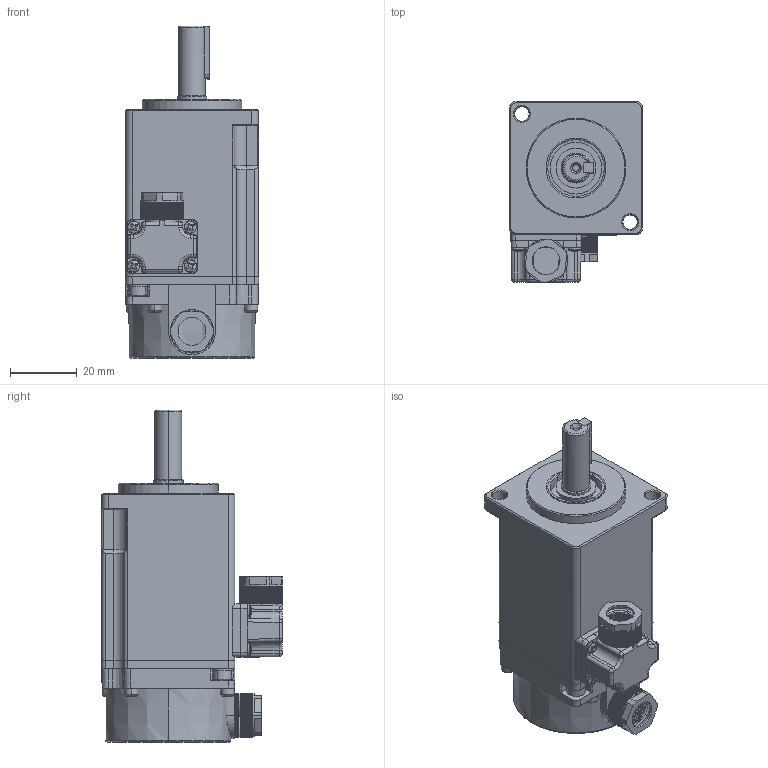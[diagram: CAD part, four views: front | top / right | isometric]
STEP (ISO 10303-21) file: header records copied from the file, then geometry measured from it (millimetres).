
FILE_DESCRIPTION (( 'STEP AP203' ), '1' );
FILE_NAME ('G3系列40ST-100W标准电机三维图.STEP', '2022-05-28T06:13:38', ( '微软用户' ), ( '微软中国' ), 'SwSTEP 2.0', 'SolidWorks 2016', '' );
FILE_SCHEMA (( 'CONFIG_CONTROL_DESIGN' ));
Products named in the file (1): G3系列40ST-100W标准电机三维图
Bounding box: 40.09 x 54.34 x 99.8 mm (x, y, z)
Volume: 49651.7 mm3; surface area: 41613.3 mm2
Topology: 19 solids, 19 shells, 2327 faces, 5646 edges, 3423 vertices
Faces by surface type: plane 1439, cylinder 423, cone 347, torus 60, bspline 34, sphere 24
Entity records: 68081 total; most frequent: CARTESIAN_POINT 12917, DIRECTION 11881, ORIENTED_EDGE 11260, EDGE_CURVE 5630, AXIS2_PLACEMENT_3D 4140, VECTOR 3601, LINE 3601, VERTEX_POINT 3423
